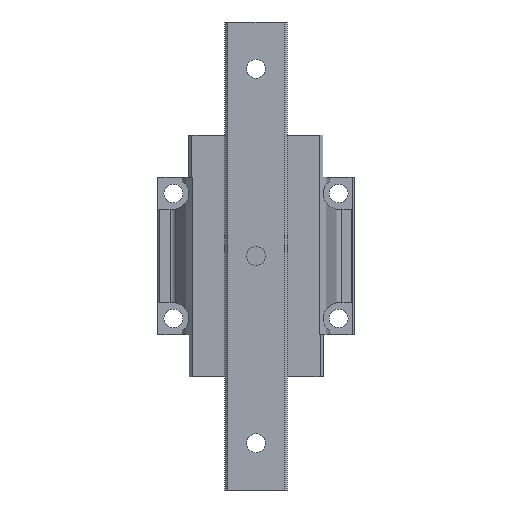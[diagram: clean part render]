
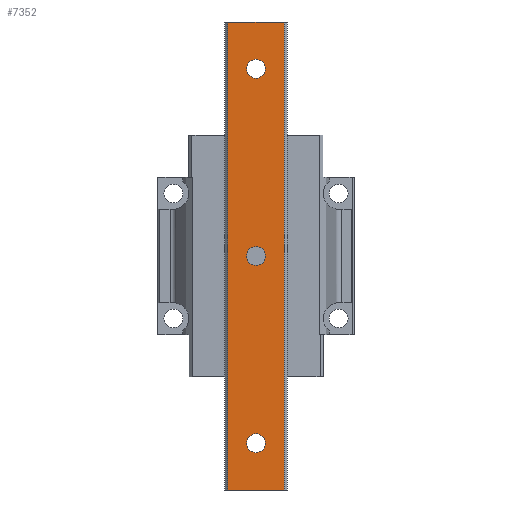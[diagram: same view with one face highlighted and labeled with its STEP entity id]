
A CAD part, front view. The second image highlights one B-rep face of the part: STEP entity #7352.
In plain terms, the highlighted planar face has unit normal (0, -1, 0).
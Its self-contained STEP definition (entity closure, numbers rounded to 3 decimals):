
#6276=DIRECTION('',(-1.,0.,0.));
#6277=VECTOR('',#6276,18.);
#6278=CARTESIAN_POINT('',(9.,-17.5,-75.));
#6279=LINE('',#6278,#6277);
#6280=DIRECTION('',(0.,0.,-1.));
#6281=VECTOR('',#6280,150.);
#6282=CARTESIAN_POINT('',(9.,-17.5,75.));
#6283=LINE('',#6282,#6281);
#6284=CARTESIAN_POINT('',(0.,-17.5,0.));
#6285=DIRECTION('',(0.,-1.,0.));
#6286=DIRECTION('',(1.,0.,0.));
#6287=AXIS2_PLACEMENT_3D('',#6284,#6285,#6286);
#6289=CARTESIAN_POINT('',(0.,-17.5,0.));
#6290=DIRECTION('',(0.,-1.,0.));
#6291=DIRECTION('',(-1.,0.,0.));
#6292=AXIS2_PLACEMENT_3D('',#6289,#6290,#6291);
#6294=CARTESIAN_POINT('',(0.,-17.5,60.));
#6295=DIRECTION('',(0.,-1.,0.));
#6296=DIRECTION('',(1.,0.,0.));
#6297=AXIS2_PLACEMENT_3D('',#6294,#6295,#6296);
#6299=CARTESIAN_POINT('',(0.,-17.5,60.));
#6300=DIRECTION('',(0.,-1.,0.));
#6301=DIRECTION('',(-1.,0.,0.));
#6302=AXIS2_PLACEMENT_3D('',#6299,#6300,#6301);
#6304=CARTESIAN_POINT('',(0.,-17.5,-60.));
#6305=DIRECTION('',(0.,-1.,0.));
#6306=DIRECTION('',(1.,0.,0.));
#6307=AXIS2_PLACEMENT_3D('',#6304,#6305,#6306);
#6309=CARTESIAN_POINT('',(0.,-17.5,-60.));
#6310=DIRECTION('',(0.,-1.,0.));
#6311=DIRECTION('',(-1.,0.,0.));
#6312=AXIS2_PLACEMENT_3D('',#6309,#6310,#6311);
#6314=DIRECTION('',(0.,0.,-1.));
#6315=VECTOR('',#6314,150.);
#6316=CARTESIAN_POINT('',(-9.,-17.5,75.));
#6317=LINE('',#6316,#6315);
#6535=DIRECTION('',(-1.,0.,0.));
#6536=VECTOR('',#6535,18.);
#6537=CARTESIAN_POINT('',(9.,-17.5,75.));
#6538=LINE('',#6537,#6536);
#6792=CARTESIAN_POINT('',(-9.,-17.5,-75.));
#6793=VERTEX_POINT('',#6792);
#6794=CARTESIAN_POINT('',(9.,-17.5,-75.));
#6795=VERTEX_POINT('',#6794);
#6868=CARTESIAN_POINT('',(9.,-17.5,75.));
#6869=VERTEX_POINT('',#6868);
#6870=CARTESIAN_POINT('',(-9.,-17.5,75.));
#6871=VERTEX_POINT('',#6870);
#6872=CARTESIAN_POINT('',(3.,-17.5,0.));
#6873=CARTESIAN_POINT('',(-3.,-17.5,0.));
#6874=VERTEX_POINT('',#6872);
#6875=VERTEX_POINT('',#6873);
#6876=CARTESIAN_POINT('',(3.,-17.5,60.));
#6877=CARTESIAN_POINT('',(-3.,-17.5,60.));
#6878=VERTEX_POINT('',#6876);
#6879=VERTEX_POINT('',#6877);
#6880=CARTESIAN_POINT('',(3.,-17.5,-60.));
#6881=CARTESIAN_POINT('',(-3.,-17.5,-60.));
#6882=VERTEX_POINT('',#6880);
#6883=VERTEX_POINT('',#6881);
#7321=CARTESIAN_POINT('',(-9.,-17.5,-75.));
#7322=DIRECTION('',(0.,-1.,0.));
#7323=DIRECTION('',(1.,0.,0.));
#7324=AXIS2_PLACEMENT_3D('',#7321,#7322,#7323);
#7325=PLANE('',#7324);
#7326=ORIENTED_EDGE('',*,*,#7013,.T.);
#7328=ORIENTED_EDGE('',*,*,#7327,.F.);
#7330=ORIENTED_EDGE('',*,*,#7329,.F.);
#7331=ORIENTED_EDGE('',*,*,#7313,.T.);
#7332=EDGE_LOOP('',(#7326,#7328,#7330,#7331));
#7333=FACE_OUTER_BOUND('',#7332,.F.);
#7335=ORIENTED_EDGE('',*,*,#7334,.T.);
#7337=ORIENTED_EDGE('',*,*,#7336,.T.);
#7338=EDGE_LOOP('',(#7335,#7337));
#7339=FACE_BOUND('',#7338,.F.);
#7341=ORIENTED_EDGE('',*,*,#7340,.T.);
#7343=ORIENTED_EDGE('',*,*,#7342,.T.);
#7344=EDGE_LOOP('',(#7341,#7343));
#7345=FACE_BOUND('',#7344,.F.);
#7347=ORIENTED_EDGE('',*,*,#7346,.T.);
#7349=ORIENTED_EDGE('',*,*,#7348,.T.);
#7350=EDGE_LOOP('',(#7347,#7349));
#7351=FACE_BOUND('',#7350,.F.);
#7352=ADVANCED_FACE('',(#7333,#7339,#7345,#7351),#7325,.T.);
#6288=CIRCLE('',#6287,3.);
#6293=CIRCLE('',#6292,3.);
#6298=CIRCLE('',#6297,3.);
#6303=CIRCLE('',#6302,3.);
#6308=CIRCLE('',#6307,3.);
#6313=CIRCLE('',#6312,3.);
#7013=EDGE_CURVE('',#6795,#6793,#6279,.T.);
#7313=EDGE_CURVE('',#6869,#6795,#6283,.T.);
#7327=EDGE_CURVE('',#6871,#6793,#6317,.T.);
#7329=EDGE_CURVE('',#6869,#6871,#6538,.T.);
#7334=EDGE_CURVE('',#6874,#6875,#6288,.T.);
#7336=EDGE_CURVE('',#6875,#6874,#6293,.T.);
#7340=EDGE_CURVE('',#6878,#6879,#6298,.T.);
#7342=EDGE_CURVE('',#6879,#6878,#6303,.T.);
#7346=EDGE_CURVE('',#6882,#6883,#6308,.T.);
#7348=EDGE_CURVE('',#6883,#6882,#6313,.T.);
